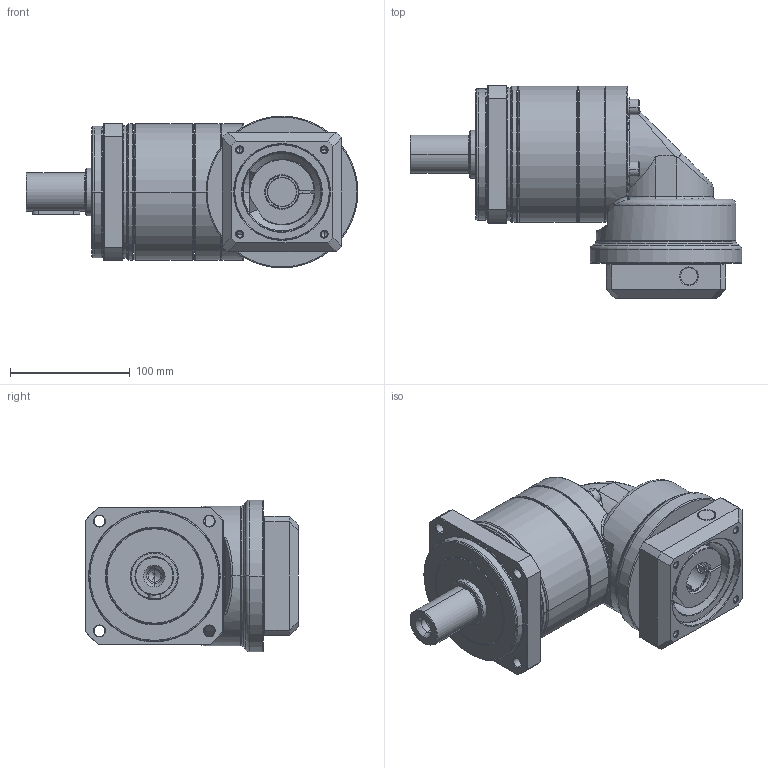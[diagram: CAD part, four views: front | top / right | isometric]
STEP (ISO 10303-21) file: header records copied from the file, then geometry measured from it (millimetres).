
FILE_DESCRIPTION((''),'2;1');
FILE_NAME('PA2R-115_1ST_24-P0411500101_ASM','2016-05-12T',('d01943'),(''),'PRO/ENGINEER BY PARAMETRIC TECHNOLOGY CORPORATION, 2008410','PRO/ENGINEER BY PARAMETRIC TECHNOLOGY CORPORATION, 2008410','');
FILE_SCHEMA(('CONFIG_CONTROL_DESIGN'));
Length unit declared in the file: millimetre
Products named in the file (12): P1327410001; P0250400001; P0350400601; P1349400001; P1017400001; P0713401001; P0503500008; P1350400101; P0411500101; P1702500001; 2111B108035; PA2R-115_1ST_24-P0411500101_ASM
Assembly tree (14 placements, depth 2):
  PA2R-115_1ST_24-P0411500101_ASM
    P1327410001
    P0250400001
    P0350400601
    P1349400001
    P1017400001
    P0713401001
    P0503500008
    P1350400101
    P0411500101
    P1702500001
    2111B108035  x4
Bounding box: 277.5 x 178 x 127 mm (x, y, z)
Volume: 1638620.3 mm3; surface area: 326395.7 mm2
Topology: 14 solids, 14 shells, 723 faces, 1596 edges, 922 vertices
Faces by surface type: cylinder 212, cone 210, plane 167, torus 102, bspline 32
Entity records: 22986 total; most frequent: CARTESIAN_POINT 9005, DIRECTION 3082, ORIENTED_EDGE 2716, EDGE_CURVE 1358, AXIS2_PLACEMENT_3D 1297, VERTEX_POINT 802, EDGE_LOOP 704, CIRCLE 679
